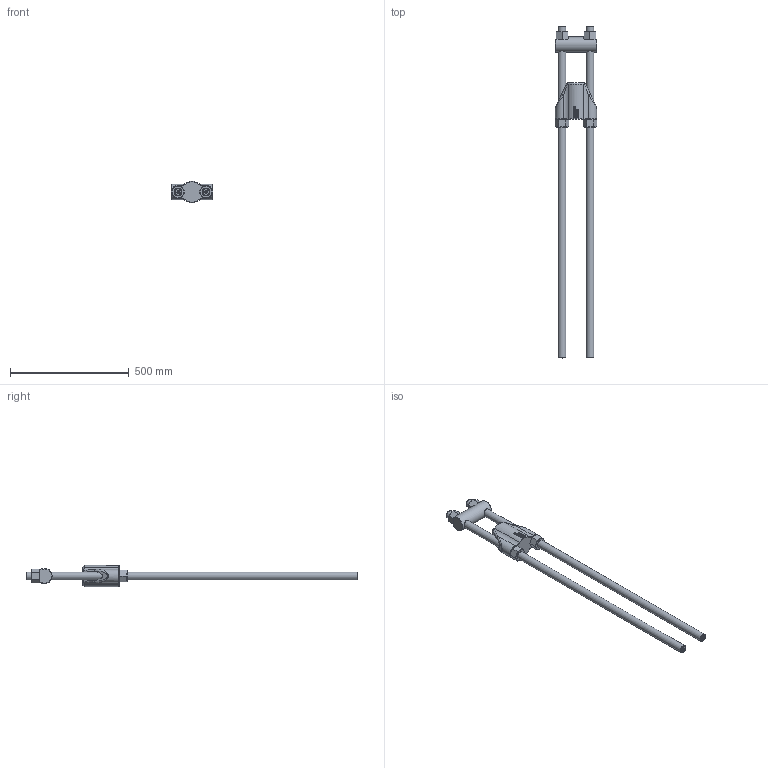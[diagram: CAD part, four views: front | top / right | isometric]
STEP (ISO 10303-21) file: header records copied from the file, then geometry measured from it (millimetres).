
FILE_DESCRIPTION(/* description */ (''),/* implementation_level */ '2;1');
FILE_NAME(/* name */ 'D:\Clienti\Redaelli (inventor)\BRC\STEP\Arrangemet\BRC028 72 111 0.stp',/* time_stamp */ '2021-05-08T08:21:57+02:00',/* author */ ('fabri'),/* organization */ (''),/* preprocessor_version */ 'ST-DEVELOPER v16.13',/* originating_system */ 'Autodesk Inventor 2018',/* authorisation */ '');
FILE_SCHEMA (('AUTOMOTIVE_DESIGN { 1 0 10303 214 3 1 1 }'));
Length unit declared in the file: millimetre
Products named in the file (5): BRC020 72 111 0; BRC020 71 112 0; BRC020 71 114 0_ROD; BRC020 71 113 0; BRC020 71 114 0_NUT
Assembly tree (8 placements, depth 2):
  BRC020 72 111 0
    BRC020 71 112 0
    BRC020 71 114 0_ROD  x2
    BRC020 71 113 0
    BRC020 71 114 0_NUT  x4
Bounding box: 175.74 x 1400 x 89.86 mm (x, y, z)
Volume: 4216935.4 mm3; surface area: 478560.7 mm2
Topology: 8 solids, 8 shells, 1594 faces, 4218 edges, 2782 vertices
Faces by surface type: bspline 743, plane 716, cone 62, cylinder 49, torus 20, sphere 4
Full cylindrical faces by diameter (mm): 29.211 x4, 33 x2, 35 x4, 64 x1
Entity records: 31530 total; most frequent: CARTESIAN_POINT 12627, ORIENTED_EDGE 4546, DIRECTION 2597, EDGE_CURVE 2273, VERTEX_POINT 1506, LINE 1213, VECTOR 1213, EDGE_LOOP 961
